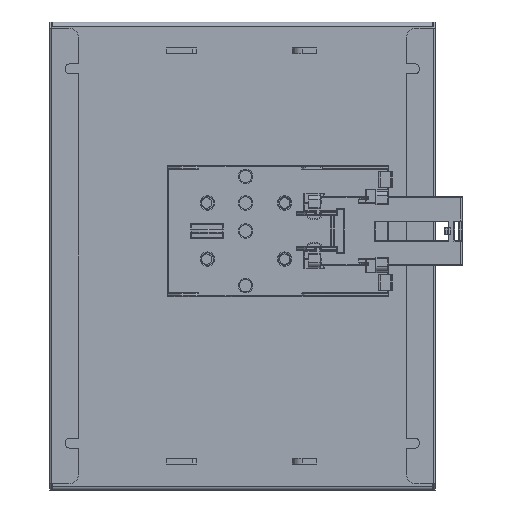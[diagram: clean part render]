
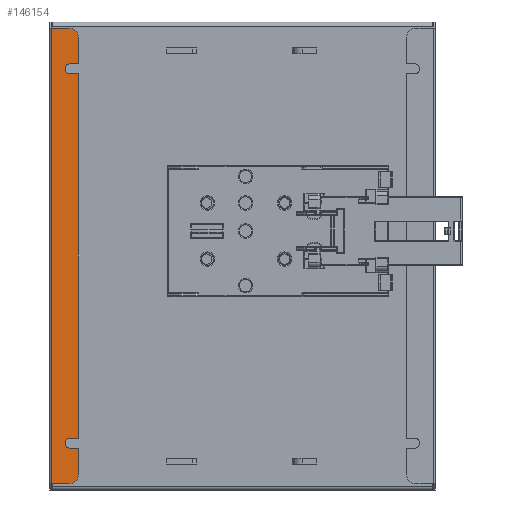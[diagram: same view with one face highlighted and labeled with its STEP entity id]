
A CAD part, front view. The second image highlights one B-rep face of the part: STEP entity #146154.
In plain terms, the highlighted planar face has unit normal (0, -1, 0).
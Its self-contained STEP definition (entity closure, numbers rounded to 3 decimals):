
#31760=DIRECTION('',(1.,0.,0.));
#31761=VECTOR('',#31760,5.6);
#31762=CARTESIAN_POINT('',(17.313,4.4,-2.));
#31763=LINE('',#31762,#31761);
#31764=CARTESIAN_POINT('',(22.913,4.4,-5.));
#31765=DIRECTION('',(0.,1.,0.));
#31766=DIRECTION('',(0.,0.,1.));
#31767=AXIS2_PLACEMENT_3D('',#31764,#31765,#31766);
#31769=CARTESIAN_POINT('',(23.313,4.4,-15.));
#31770=DIRECTION('',(0.,-1.,0.));
#31771=DIRECTION('',(0.,0.,1.));
#31772=AXIS2_PLACEMENT_3D('',#31769,#31770,#31771);
#31774=CARTESIAN_POINT('',(23.313,4.4,-135.));
#31775=DIRECTION('',(0.,-1.,0.));
#31776=DIRECTION('',(0.,0.,1.));
#31777=AXIS2_PLACEMENT_3D('',#31774,#31775,#31776);
#31779=CARTESIAN_POINT('',(22.913,4.4,-145.));
#31780=DIRECTION('',(0.,1.,0.));
#31781=DIRECTION('',(1.,0.,0.));
#31782=AXIS2_PLACEMENT_3D('',#31779,#31780,#31781);
#31784=DIRECTION('',(-1.,0.,0.));
#31785=VECTOR('',#31784,5.6);
#31786=CARTESIAN_POINT('',(22.913,4.4,-148.));
#31787=LINE('',#31786,#31785);
#31792=DIRECTION('',(0.,0.,-1.));
#31793=VECTOR('',#31792,146.);
#31794=CARTESIAN_POINT('',(17.313,4.4,-2.));
#31795=LINE('',#31794,#31793);
#31804=DIRECTION('',(0.,0.,1.));
#31805=VECTOR('',#31804,8.4);
#31806=CARTESIAN_POINT('',(25.913,4.4,-13.4));
#31807=LINE('',#31806,#31805);
#31808=DIRECTION('',(-1.,0.,0.));
#31809=VECTOR('',#31808,2.6);
#31810=CARTESIAN_POINT('',(25.913,4.4,-13.4));
#31811=LINE('',#31810,#31809);
#31828=DIRECTION('',(1.,0.,0.));
#31829=VECTOR('',#31828,2.6);
#31830=CARTESIAN_POINT('',(23.313,4.4,-16.6));
#31831=LINE('',#31830,#31829);
#31832=DIRECTION('',(0.,0.,1.));
#31833=VECTOR('',#31832,116.8);
#31834=CARTESIAN_POINT('',(25.913,4.4,-133.4));
#31835=LINE('',#31834,#31833);
#31836=DIRECTION('',(-1.,0.,0.));
#31837=VECTOR('',#31836,2.6);
#31838=CARTESIAN_POINT('',(25.913,4.4,-133.4));
#31839=LINE('',#31838,#31837);
#31856=DIRECTION('',(1.,0.,0.));
#31857=VECTOR('',#31856,2.6);
#31858=CARTESIAN_POINT('',(23.313,4.4,-136.6));
#31859=LINE('',#31858,#31857);
#31860=DIRECTION('',(0.,0.,1.));
#31861=VECTOR('',#31860,8.4);
#31862=CARTESIAN_POINT('',(25.913,4.4,-145.));
#31863=LINE('',#31862,#31861);
#85942=CARTESIAN_POINT('',(17.313,4.4,-148.));
#85943=VERTEX_POINT('',#85942);
#85944=CARTESIAN_POINT('',(22.913,4.4,-148.));
#85945=VERTEX_POINT('',#85944);
#85974=CARTESIAN_POINT('',(17.313,4.4,-2.));
#85975=VERTEX_POINT('',#85974);
#85976=CARTESIAN_POINT('',(22.913,4.4,-2.));
#85977=VERTEX_POINT('',#85976);
#85980=CARTESIAN_POINT('',(25.913,4.4,-5.));
#85981=VERTEX_POINT('',#85980);
#85982=CARTESIAN_POINT('',(25.913,4.4,-13.4));
#85983=VERTEX_POINT('',#85982);
#85984=CARTESIAN_POINT('',(23.313,4.4,-13.4));
#85985=VERTEX_POINT('',#85984);
#85986=CARTESIAN_POINT('',(23.313,4.4,-16.6));
#85987=VERTEX_POINT('',#85986);
#85988=CARTESIAN_POINT('',(25.913,4.4,-16.6));
#85989=VERTEX_POINT('',#85988);
#85990=CARTESIAN_POINT('',(25.913,4.4,-133.4));
#85991=VERTEX_POINT('',#85990);
#85992=CARTESIAN_POINT('',(23.313,4.4,-133.4));
#85993=VERTEX_POINT('',#85992);
#85994=CARTESIAN_POINT('',(23.313,4.4,-136.6));
#85995=VERTEX_POINT('',#85994);
#85996=CARTESIAN_POINT('',(25.913,4.4,-136.6));
#85997=VERTEX_POINT('',#85996);
#85998=CARTESIAN_POINT('',(25.913,4.4,-145.));
#85999=VERTEX_POINT('',#85998);
#146122=CARTESIAN_POINT('',(21.613,4.4,-75.));
#146123=DIRECTION('',(0.,1.,0.));
#146124=DIRECTION('',(1.,0.,0.));
#146125=AXIS2_PLACEMENT_3D('',#146122,#146123,#146124);
#146126=PLANE('',#146125);
#146128=ORIENTED_EDGE('',*,*,#146127,.F.);
#146129=ORIENTED_EDGE('',*,*,#129877,.T.);
#146131=ORIENTED_EDGE('',*,*,#146130,.T.);
#146133=ORIENTED_EDGE('',*,*,#146132,.F.);
#146135=ORIENTED_EDGE('',*,*,#146134,.T.);
#146137=ORIENTED_EDGE('',*,*,#146136,.T.);
#146139=ORIENTED_EDGE('',*,*,#146138,.T.);
#146141=ORIENTED_EDGE('',*,*,#146140,.F.);
#146143=ORIENTED_EDGE('',*,*,#146142,.T.);
#146145=ORIENTED_EDGE('',*,*,#146144,.T.);
#146147=ORIENTED_EDGE('',*,*,#146146,.T.);
#146149=ORIENTED_EDGE('',*,*,#146148,.F.);
#146150=ORIENTED_EDGE('',*,*,#146115,.T.);
#146151=ORIENTED_EDGE('',*,*,#123291,.T.);
#146152=EDGE_LOOP('',(#146128,#146129,#146131,#146133,#146135,#146137,#146139,
#146141,#146143,#146145,#146147,#146149,#146150,#146151));
#146153=FACE_OUTER_BOUND('',#146152,.F.);
#146154=ADVANCED_FACE('',(#146153),#146126,.F.);
#31768=CIRCLE('',#31767,3.);
#31773=CIRCLE('',#31772,1.6);
#31778=CIRCLE('',#31777,1.6);
#31783=CIRCLE('',#31782,3.);
#123291=EDGE_CURVE('',#85945,#85943,#31787,.T.);
#129877=EDGE_CURVE('',#85975,#85977,#31763,.T.);
#146115=EDGE_CURVE('',#85999,#85945,#31783,.T.);
#146127=EDGE_CURVE('',#85975,#85943,#31795,.T.);
#146130=EDGE_CURVE('',#85977,#85981,#31768,.T.);
#146132=EDGE_CURVE('',#85983,#85981,#31807,.T.);
#146134=EDGE_CURVE('',#85983,#85985,#31811,.T.);
#146136=EDGE_CURVE('',#85985,#85987,#31773,.T.);
#146138=EDGE_CURVE('',#85987,#85989,#31831,.T.);
#146140=EDGE_CURVE('',#85991,#85989,#31835,.T.);
#146142=EDGE_CURVE('',#85991,#85993,#31839,.T.);
#146144=EDGE_CURVE('',#85993,#85995,#31778,.T.);
#146146=EDGE_CURVE('',#85995,#85997,#31859,.T.);
#146148=EDGE_CURVE('',#85999,#85997,#31863,.T.);
